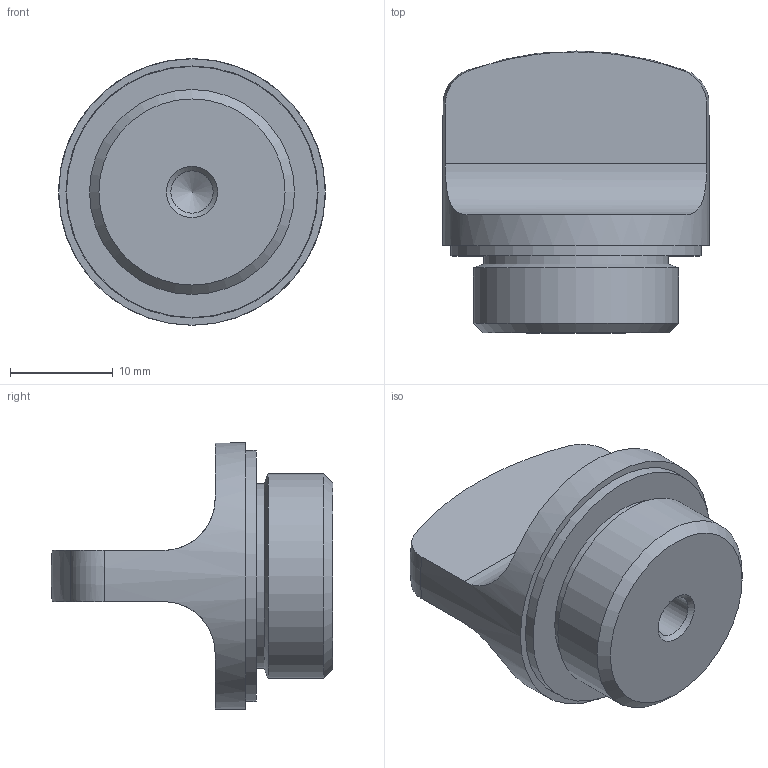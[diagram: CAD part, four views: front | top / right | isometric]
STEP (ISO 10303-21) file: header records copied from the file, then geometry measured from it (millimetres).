
FILE_DESCRIPTION( ( 'STEP AP203' ), '1' );
FILE_NAME( 'C:/Temp/Ganter_Step_05_03_2020/data/3_5/gn441/Threaded plug GN 441-26-M20x1,5-1-BL.stp', '2020-03-12T13:34:48', ( 'License CC BY-ND 4.0' ), ( 'CADENAS' ), ' ', 'PARTsolutions', ' ' );
FILE_SCHEMA( ( 'CONFIG_CONTROL_DESIGN' ) );
Length unit declared in the file: millimetre
Products named in the file (1): _Threaded plug GN 441-26-M20x1,5-1-BL
Bounding box: 26 x 27.5 x 26 mm (x, y, z)
Volume: 6281.5 mm3; surface area: 3375.4 mm2
Topology: 1 solids, 1 shells, 29 faces, 63 edges, 41 vertices
Faces by surface type: cylinder 11, plane 11, cone 4, torus 2, sphere 1
Full cylindrical faces by diameter (mm): 4.134 x1, 18 x1, 18.5 x1, 20 x1, 21.9 x1, 22 x1, 24.5 x1, 24.6 x1, 26 x1
Entity records: 850 total; most frequent: CARTESIAN_POINT 248, DIRECTION 122, ORIENTED_EDGE 86, AXIS2_PLACEMENT_3D 57, EDGE_LOOP 48, EDGE_CURVE 43, FACE_OUTER_BOUND 38, VERTEX_POINT 37
